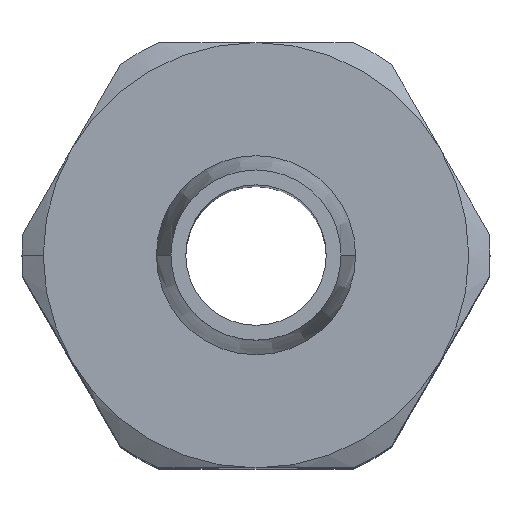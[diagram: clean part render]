
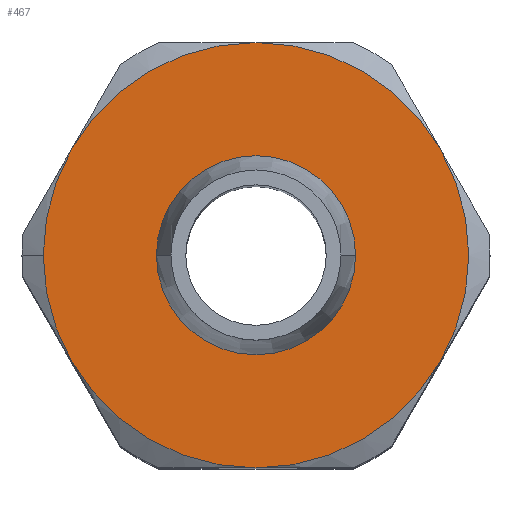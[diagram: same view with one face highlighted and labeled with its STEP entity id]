
A CAD part, top view. The second image highlights one B-rep face of the part: STEP entity #467.
In plain terms, the highlighted planar face has unit normal (0, 0, 1).
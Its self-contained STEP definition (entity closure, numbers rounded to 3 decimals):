
#11 = EDGE_CURVE ( 'NONE', #2264, #2859, #2870, .T. ) ;
#57 = CIRCLE ( 'NONE', #1390, 5. ) ;
#61 = AXIS2_PLACEMENT_3D ( 'NONE', #757, #1569, #824 ) ;
#82 = ORIENTED_EDGE ( 'NONE', *, *, #2555, .F. ) ;
#138 = EDGE_LOOP ( 'NONE', ( #262, #888 ) ) ;
#170 = DIRECTION ( 'NONE',  ( 0., 0., -1. ) ) ;
#232 = DIRECTION ( 'NONE',  ( -1., 0., 0. ) ) ;
#262 = ORIENTED_EDGE ( 'NONE', *, *, #2519, .F. ) ;
#270 = FACE_BOUND ( 'NONE', #138, .T. ) ;
#327 = CARTESIAN_POINT ( 'NONE',  ( 0., 0., 10.2 ) ) ;
#332 = CARTESIAN_POINT ( 'NONE',  ( 0., 0., 10.2 ) ) ;
#348 = ORIENTED_EDGE ( 'NONE', *, *, #1688, .F. ) ;
#462 = CARTESIAN_POINT ( 'NONE',  ( 0., 0., 10.2 ) ) ;
#467 = ADVANCED_FACE ( 'NONE', ( #270, #2172 ), #2709, .T. ) ;
#482 = EDGE_CURVE ( 'NONE', #2971, #1669, #2573, .T. ) ;
#561 = CARTESIAN_POINT ( 'NONE',  ( -4.33, 2.5, 10.2 ) ) ;
#589 = CIRCLE ( 'NONE', #3053, 5. ) ;
#605 = EDGE_CURVE ( 'NONE', #2259, #2006, #664, .T. ) ;
#616 = ORIENTED_EDGE ( 'NONE', *, *, #1449, .F. ) ;
#639 = ORIENTED_EDGE ( 'NONE', *, *, #1890, .F. ) ;
#664 = CIRCLE ( 'NONE', #1489, 2.34 ) ;
#714 = CARTESIAN_POINT ( 'NONE',  ( -2.34, 0., 10.2 ) ) ;
#719 = DIRECTION ( 'NONE',  ( 0., 0., -1. ) ) ;
#757 = CARTESIAN_POINT ( 'NONE',  ( 0., 0., 10.2 ) ) ;
#779 = CIRCLE ( 'NONE', #2787, 5. ) ;
#824 = DIRECTION ( 'NONE',  ( 1., 0., 0. ) ) ;
#863 = EDGE_LOOP ( 'NONE', ( #82, #616, #639, #2289, #1313, #3049, #348 ) ) ;
#878 = AXIS2_PLACEMENT_3D ( 'NONE', #945, #2956, #3166 ) ;
#888 = ORIENTED_EDGE ( 'NONE', *, *, #605, .F. ) ;
#945 = CARTESIAN_POINT ( 'NONE',  ( 0., 0., 10.2 ) ) ;
#1054 = DIRECTION ( 'NONE',  ( -1., 0., 0. ) ) ;
#1078 = DIRECTION ( 'NONE',  ( 1., 0., 0. ) ) ;
#1168 = VERTEX_POINT ( 'NONE', #1907 ) ;
#1230 = AXIS2_PLACEMENT_3D ( 'NONE', #332, #2524, #1054 ) ;
#1313 = ORIENTED_EDGE ( 'NONE', *, *, #3002, .F. ) ;
#1390 = AXIS2_PLACEMENT_3D ( 'NONE', #327, #3044, #2549 ) ;
#1449 = EDGE_CURVE ( 'NONE', #1643, #1168, #57, .T. ) ;
#1451 = AXIS2_PLACEMENT_3D ( 'NONE', #2275, #1743, #2774 ) ;
#1470 = DIRECTION ( 'NONE',  ( 1., 0., 0. ) ) ;
#1489 = AXIS2_PLACEMENT_3D ( 'NONE', #2045, #2729, #1078 ) ;
#1493 = CARTESIAN_POINT ( 'NONE',  ( -5., 0., 10.2 ) ) ;
#1569 = DIRECTION ( 'NONE',  ( 0., 0., 1. ) ) ;
#1643 = VERTEX_POINT ( 'NONE', #1998 ) ;
#1669 = VERTEX_POINT ( 'NONE', #2667 ) ;
#1688 = EDGE_CURVE ( 'NONE', #2458, #2264, #2323, .T. ) ;
#1743 = DIRECTION ( 'NONE',  ( 0., 0., -1. ) ) ;
#1890 = EDGE_CURVE ( 'NONE', #1669, #1643, #779, .T. ) ;
#1907 = CARTESIAN_POINT ( 'NONE',  ( 4.33, -2.5, 10.2 ) ) ;
#1998 = CARTESIAN_POINT ( 'NONE',  ( 4.33, 2.5, 10.2 ) ) ;
#2006 = VERTEX_POINT ( 'NONE', #714 ) ;
#2045 = CARTESIAN_POINT ( 'NONE',  ( 0., 0., 10.2 ) ) ;
#2122 = CARTESIAN_POINT ( 'NONE',  ( 0., 0., 10.2 ) ) ;
#2147 = DIRECTION ( 'NONE',  ( 0., 0., -1. ) ) ;
#2172 = FACE_OUTER_BOUND ( 'NONE', #863, .T. ) ;
#2204 = AXIS2_PLACEMENT_3D ( 'NONE', #462, #719, #232 ) ;
#2206 = CARTESIAN_POINT ( 'NONE',  ( 0., -5., 10.2 ) ) ;
#2259 = VERTEX_POINT ( 'NONE', #2387 ) ;
#2264 = VERTEX_POINT ( 'NONE', #2354 ) ;
#2275 = CARTESIAN_POINT ( 'NONE',  ( 0., 0., 10.2 ) ) ;
#2289 = ORIENTED_EDGE ( 'NONE', *, *, #482, .F. ) ;
#2323 = CIRCLE ( 'NONE', #878, 5. ) ;
#2354 = CARTESIAN_POINT ( 'NONE',  ( -4.33, -2.5, 10.2 ) ) ;
#2387 = CARTESIAN_POINT ( 'NONE',  ( 2.34, 0., 10.2 ) ) ;
#2412 = CARTESIAN_POINT ( 'NONE',  ( 0., 0., 10.2 ) ) ;
#2458 = VERTEX_POINT ( 'NONE', #2206 ) ;
#2482 = DIRECTION ( 'NONE',  ( 0., 0., 1. ) ) ;
#2519 = EDGE_CURVE ( 'NONE', #2006, #2259, #3146, .T. ) ;
#2524 = DIRECTION ( 'NONE',  ( 0., 0., -1. ) ) ;
#2549 = DIRECTION ( 'NONE',  ( -1., 0., 0. ) ) ;
#2555 = EDGE_CURVE ( 'NONE', #1168, #2458, #2841, .T. ) ;
#2573 = CIRCLE ( 'NONE', #2204, 5. ) ;
#2616 = CARTESIAN_POINT ( 'NONE',  ( 0., 0., 10.2 ) ) ;
#2667 = CARTESIAN_POINT ( 'NONE',  ( 0., 5., 10.2 ) ) ;
#2709 = PLANE ( 'NONE',  #3180 ) ;
#2729 = DIRECTION ( 'NONE',  ( 0., 0., 1. ) ) ;
#2774 = DIRECTION ( 'NONE',  ( -1., 0., 0. ) ) ;
#2787 = AXIS2_PLACEMENT_3D ( 'NONE', #2616, #170, #2872 ) ;
#2841 = CIRCLE ( 'NONE', #1451, 5. ) ;
#2859 = VERTEX_POINT ( 'NONE', #1493 ) ;
#2870 = CIRCLE ( 'NONE', #1230, 5. ) ;
#2872 = DIRECTION ( 'NONE',  ( -1., 0., 0. ) ) ;
#2956 = DIRECTION ( 'NONE',  ( 0., 0., -1. ) ) ;
#2971 = VERTEX_POINT ( 'NONE', #561 ) ;
#3002 = EDGE_CURVE ( 'NONE', #2859, #2971, #589, .T. ) ;
#3044 = DIRECTION ( 'NONE',  ( 0., 0., -1. ) ) ;
#3049 = ORIENTED_EDGE ( 'NONE', *, *, #11, .F. ) ;
#3053 = AXIS2_PLACEMENT_3D ( 'NONE', #2122, #2147, #3128 ) ;
#3128 = DIRECTION ( 'NONE',  ( -1., 0., 0. ) ) ;
#3146 = CIRCLE ( 'NONE', #61, 2.34 ) ;
#3166 = DIRECTION ( 'NONE',  ( -1., 0., 0. ) ) ;
#3180 = AXIS2_PLACEMENT_3D ( 'NONE', #2412, #2482, #1470 ) ;
